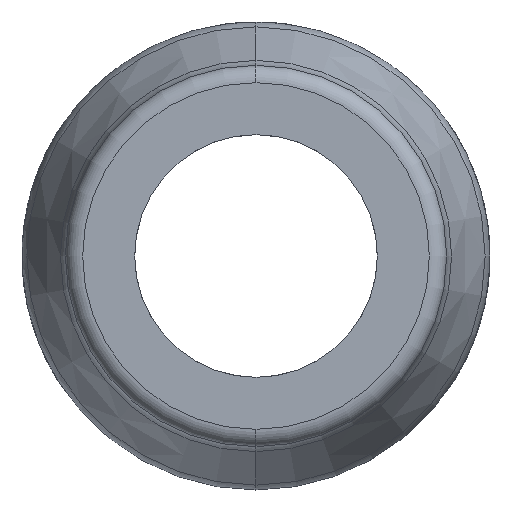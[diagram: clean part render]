
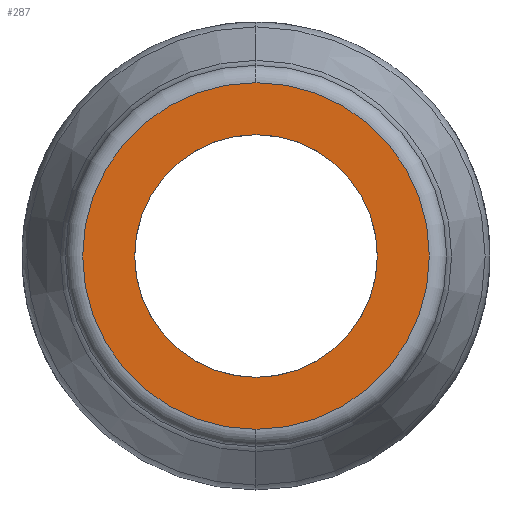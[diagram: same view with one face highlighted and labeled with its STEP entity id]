
A CAD part, left-side view. The second image highlights one B-rep face of the part: STEP entity #287.
In plain terms, the highlighted planar face has unit normal (-1, 0, 0).
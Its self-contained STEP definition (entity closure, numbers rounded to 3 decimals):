
#56 = CIRCLE ( 'NONE', #589, 30. ) ;
#210 = EDGE_LOOP ( 'NONE', ( #945, #926 ) ) ;
#250 = CARTESIAN_POINT ( 'NONE',  ( 0., 0., -21. ) ) ;
#280 = ORIENTED_EDGE ( 'NONE', *, *, #1709, .T. ) ;
#287 = ADVANCED_FACE ( 'NONE', ( #1745, #1702 ), #1708, .F. ) ;
#390 = DIRECTION ( 'NONE',  ( -1., 0., 0. ) ) ;
#433 = EDGE_CURVE ( 'NONE', #1754, #666, #1151, .T. ) ;
#437 = DIRECTION ( 'NONE',  ( -1., 0., 0. ) ) ;
#451 = AXIS2_PLACEMENT_3D ( 'NONE', #1856, #437, #1604 ) ;
#589 = AXIS2_PLACEMENT_3D ( 'NONE', #971, #1278, #993 ) ;
#666 = VERTEX_POINT ( 'NONE', #1511 ) ;
#769 = CIRCLE ( 'NONE', #1175, 30. ) ;
#871 = DIRECTION ( 'NONE',  ( 1., 0., 0. ) ) ;
#924 = CARTESIAN_POINT ( 'NONE',  ( 0., 0., -30. ) ) ;
#926 = ORIENTED_EDGE ( 'NONE', *, *, #433, .F. ) ;
#945 = ORIENTED_EDGE ( 'NONE', *, *, #1134, .F. ) ;
#966 = DIRECTION ( 'NONE',  ( 0., 0., 1. ) ) ;
#971 = CARTESIAN_POINT ( 'NONE',  ( 0., 0., 0. ) ) ;
#972 = EDGE_CURVE ( 'NONE', #1295, #1650, #769, .T. ) ;
#993 = DIRECTION ( 'NONE',  ( 0., 0., -1. ) ) ;
#1037 = CARTESIAN_POINT ( 'NONE',  ( 0., 0., 30. ) ) ;
#1134 = EDGE_CURVE ( 'NONE', #666, #1754, #1827, .T. ) ;
#1151 = CIRCLE ( 'NONE', #451, 21. ) ;
#1175 = AXIS2_PLACEMENT_3D ( 'NONE', #1817, #1810, #1804 ) ;
#1204 = DIRECTION ( 'NONE',  ( 0., 0., -1. ) ) ;
#1278 = DIRECTION ( 'NONE',  ( -1., 0., 0. ) ) ;
#1295 = VERTEX_POINT ( 'NONE', #924 ) ;
#1323 = CARTESIAN_POINT ( 'NONE',  ( 0., 21., 0. ) ) ;
#1388 = ORIENTED_EDGE ( 'NONE', *, *, #972, .T. ) ;
#1511 = CARTESIAN_POINT ( 'NONE',  ( 0., 0., 21. ) ) ;
#1563 = AXIS2_PLACEMENT_3D ( 'NONE', #1323, #871, #1204 ) ;
#1604 = DIRECTION ( 'NONE',  ( 0., 0., 1. ) ) ;
#1609 = EDGE_LOOP ( 'NONE', ( #1388, #280 ) ) ;
#1645 = AXIS2_PLACEMENT_3D ( 'NONE', #1737, #390, #966 ) ;
#1650 = VERTEX_POINT ( 'NONE', #1037 ) ;
#1702 = FACE_BOUND ( 'NONE', #210, .T. ) ;
#1708 = PLANE ( 'NONE',  #1563 ) ;
#1709 = EDGE_CURVE ( 'NONE', #1650, #1295, #56, .T. ) ;
#1737 = CARTESIAN_POINT ( 'NONE',  ( 0., 0., 0. ) ) ;
#1745 = FACE_OUTER_BOUND ( 'NONE', #1609, .T. ) ;
#1754 = VERTEX_POINT ( 'NONE', #250 ) ;
#1804 = DIRECTION ( 'NONE',  ( 0., 0., -1. ) ) ;
#1810 = DIRECTION ( 'NONE',  ( -1., 0., 0. ) ) ;
#1817 = CARTESIAN_POINT ( 'NONE',  ( 0., 0., 0. ) ) ;
#1827 = CIRCLE ( 'NONE', #1645, 21. ) ;
#1856 = CARTESIAN_POINT ( 'NONE',  ( 0., 0., 0. ) ) ;
